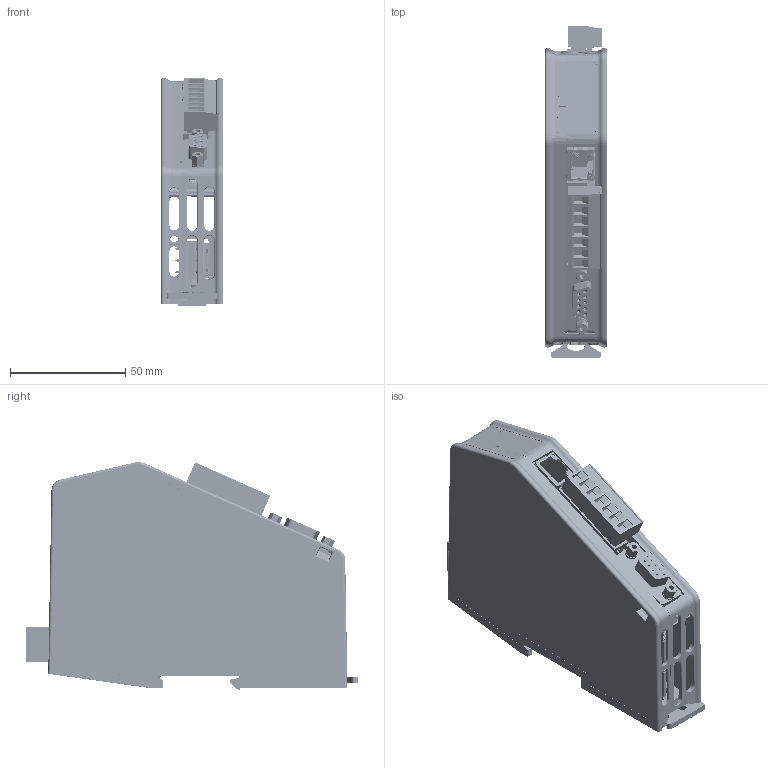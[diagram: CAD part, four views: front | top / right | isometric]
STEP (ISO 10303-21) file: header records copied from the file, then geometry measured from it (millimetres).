
FILE_DESCRIPTION (( 'STEP AP214' ), '1' );
FILE_NAME ('SDH-8935-009-M0.STEP', '2021-11-04T12:58:55', ( '' ), ( '' ), 'SwSTEP 2.0', 'SolidWorks 2020', '' );
FILE_SCHEMA (( 'AUTOMOTIVE_DESIGN' ));
Length unit declared in the file: millimetre
Products named in the file (8): SDH-8935-005-M0-G0-C00_4 leds, with logo; Communicator 2_0 PDP_Main(ETN PHY Int regulator)_Without components; SDH-8935-003-M0-G0-C00; SDH-8935-001-M0-G0-C00; RA0816; SDH-8935-009-M0; RA1021; SDH-8935-002-M0
Assembly tree (7 placements, depth 2):
  SDH-8935-009-M0
    SDH-8935-001-M0-G0-C00
    SDH-8935-002-M0
    SDH-8935-003-M0-G0-C00
    SDH-8935-005-M0-G0-C00_4 leds, with logo
    RA0816
    RA1021
    Communicator 2_0 PDP_Main(ETN PHY Int regulator)_Without components
Bounding box: 27 x 144 x 98.69 mm (x, y, z)
Volume: 93637.7 mm3; surface area: 104188.2 mm2
Topology: 52 solids, 58 shells, 11675 faces, 31799 edges, 20566 vertices
Faces by surface type: plane 8699, cylinder 1818, bspline 603, cone 283, torus 199, sphere 73
Entity records: 410640 total; most frequent: CARTESIAN_POINT 103500, ORIENTED_EDGE 63592, DIRECTION 51798, EDGE_CURVE 31796, LINE 22600, VECTOR 22600, VERTEX_POINT 20566, AXIS2_PLACEMENT_3D 14599
